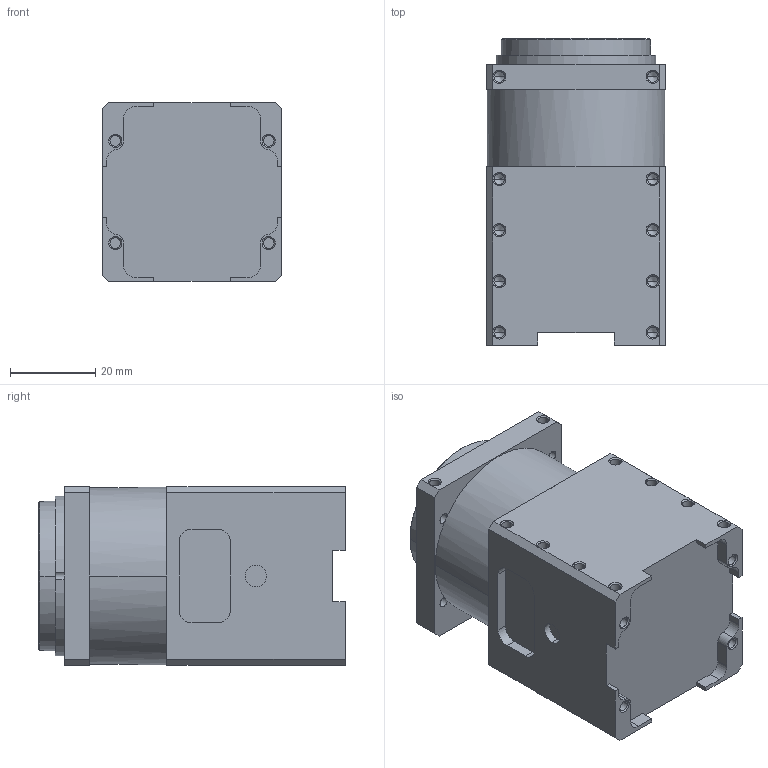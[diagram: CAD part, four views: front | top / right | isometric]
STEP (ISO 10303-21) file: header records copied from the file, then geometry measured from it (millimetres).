
FILE_DESCRIPTION((''),'2;1');
FILE_NAME('L42-10-S300-R','2014-06-11T',('yunever'),(''),'PRO/ENGINEER BY PARAMETRIC TECHNOLOGY CORPORATION, 2011220','PRO/ENGINEER BY PARAMETRIC TECHNOLOGY CORPORATION, 2011220','');
FILE_SCHEMA(('CONFIG_CONTROL_DESIGN'));
Length unit declared in the file: millimetre
Products named in the file (1): L42-10-S300-R
Bounding box: 42 x 72 x 42 mm (x, y, z)
Volume: 107607.9 mm3; surface area: 17517.7 mm2
Topology: 1 solids, 1 shells, 320 faces, 841 edges, 486 vertices
Faces by surface type: cone 131, cylinder 112, plane 77
Entity records: 9561 total; most frequent: CARTESIAN_POINT 1790, DIRECTION 1704, ORIENTED_EDGE 1570, EDGE_CURVE 785, AXIS2_PLACEMENT_3D 643, VERTEX_POINT 486, VECTOR 418, LINE 418
